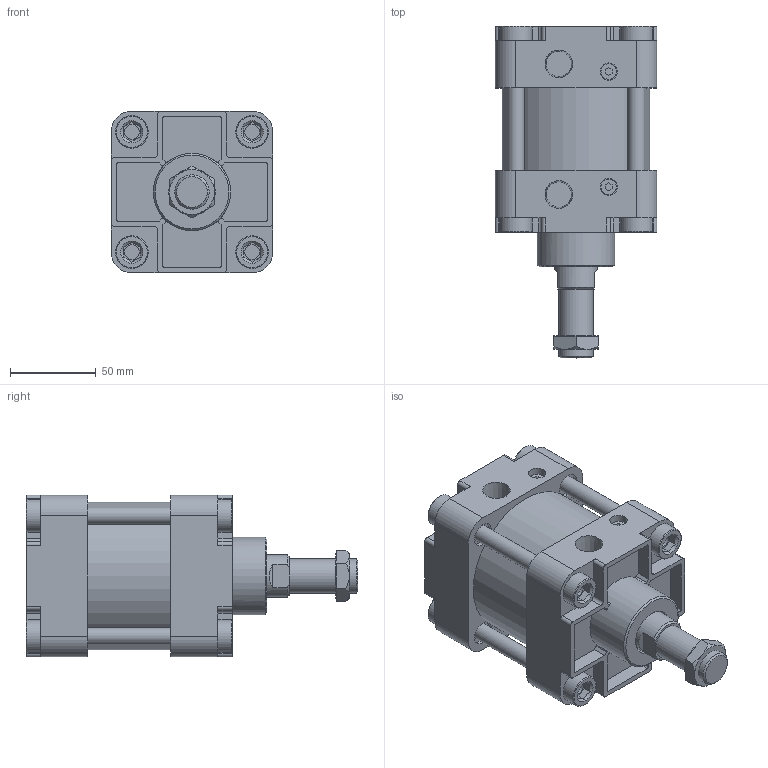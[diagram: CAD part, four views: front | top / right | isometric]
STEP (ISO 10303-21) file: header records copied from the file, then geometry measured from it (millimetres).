
FILE_DESCRIPTION(/* description */ ('Unknown'),/* implementation_level */ '2;1');
FILE_NAME(/* name */ 'WA80-0',/* time_stamp */ '2026-07-17T16:55:21+08:00',/* author */ ('Unknown'),/* organization */ ('Unknown'),/* preprocessor_version */ 'ST-DEVELOPER v16.7',/* originating_system */ 'DEX',/* authorisation */ $);
FILE_SCHEMA (('CONFIG_CONTROL_DESIGN'));
Length unit declared in the file: millimetre
Products named in the file (7): WA80-0; WA80_前; WA80_後; WA80_鋁; WA80_､ﾟｶbｬ｡_;m^XD}; WA80_T帽牙T; M20-1.5P-8_螺
Assembly tree (9 placements, depth 2):
  WA80-0
    WA80_前
    WA80_後
    WA80_鋁
    WA80_､ﾟｶbｬ｡_;m^XD}
    WA80_T帽牙T  x4
    M20-1.5P-8_螺
Bounding box: 94 x 193 x 94 mm (x, y, z)
Volume: 870247.2 mm3; surface area: 171197.9 mm2
Topology: 9 solids, 9 shells, 369 faces, 893 edges, 591 vertices
Faces by surface type: plane 219, cylinder 119, cone 23, torus 8
Full cylindrical faces by diameter (mm): 8.5 x8, 9 x2, 10 x6, 14 x12, 14.2 x4, 18.376 x1, 19 x8, 20 x1, 25 x2, 26 x1, 45 x1, 79.5 x1, 80 x3, 86 x1
Entity records: 9922 total; most frequent: CARTESIAN_POINT 1476, DIRECTION 1398, ORIENTED_EDGE 1268, EDGE_CURVE 634, AXIS2_PLACEMENT_3D 512, VERTEX_POINT 442, LINE 374, VECTOR 374
